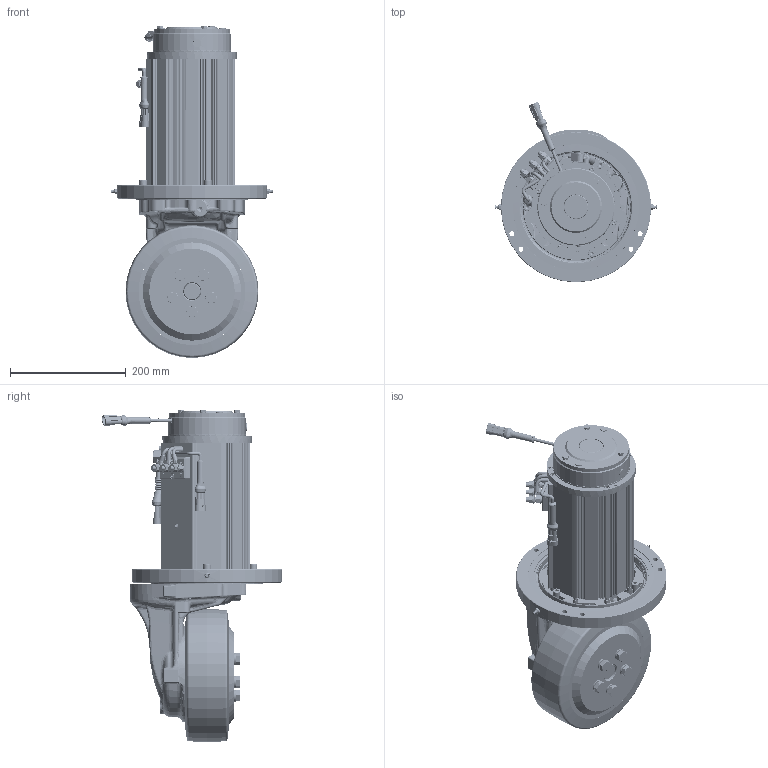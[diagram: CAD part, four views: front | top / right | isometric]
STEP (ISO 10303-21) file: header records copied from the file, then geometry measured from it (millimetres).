
FILE_DESCRIPTION(/* description */ (''),/* implementation_level */ '2;1');
FILE_NAME(/* name */ 'WR230FM-AC.stp',/* time_stamp */ '2026-05-28T11:42:37+02:00',/* author */ ('cad3'),/* organization */ (''),/* preprocessor_version */ 'ST-DEVELOPER v20',/* originating_system */ 'Autodesk Inventor 2025',/* authorisation */ '');
FILE_SCHEMA (('AUTOMOTIVE_DESIGN { 1 0 10303 214 3 1 1 }'));
Products named in the file (1): WR230FM-AC
Bounding box: 285 x 312.1 x 574.5 mm (x, y, z)
Volume: 8324102.8 mm3; surface area: 1379869.4 mm2
Topology: 55 solids, 185 shells, 9530 faces, 25804 edges, 16464 vertices
Faces by surface type: plane 6163, cylinder 1256, bspline 1013, cone 661, torus 346, sphere 91
Full cylindrical faces by diameter (mm): 0.5 x2, 1.5 x2, 1.914 x2, 2 x6, 2.5 x4, 2.523 x2, 3 x3, 3.457 x2, 4 x4, 4.134 x23, 4.5 x2, 4.917 x9, 5 x17, 5.2 x2, 5.3 x14, 5.4 x1, 5.5 x15, 6 x15, 6.2 x10, 6.3 x3, 6.4 x3, 6.5 x1, 6.647 x1, 6.8 x3, 7.1 x2, 7.8 x12, 8 x26, 8.2 x3, 8.4 x8, 8.5 x32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
Entity records: 388812 total; most frequent: CARTESIAN_POINT 142030, ORIENTED_EDGE 51250, DIRECTION 47534, EDGE_CURVE 25625, VERTEX_POINT 16521, AXIS2_PLACEMENT_3D 16473, LINE 14588, VECTOR 14588
